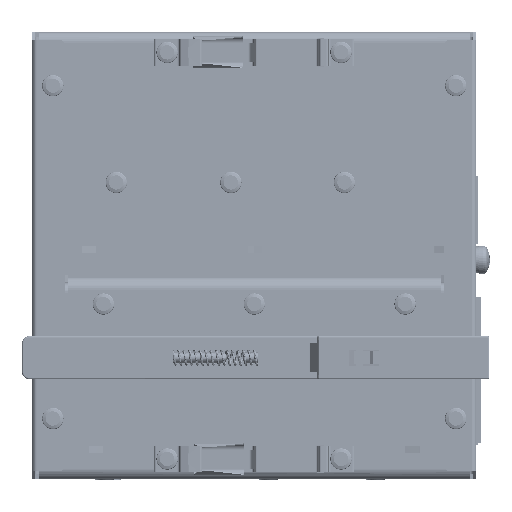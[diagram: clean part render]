
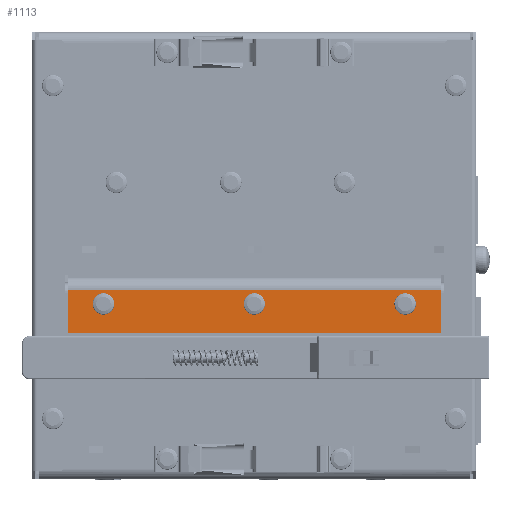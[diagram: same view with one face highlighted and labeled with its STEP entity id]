
A CAD part, left-side view. The second image highlights one B-rep face of the part: STEP entity #1113.
In plain terms, the highlighted planar face has unit normal (-1, 0, 0).
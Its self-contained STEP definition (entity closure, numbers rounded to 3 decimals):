
#901=CARTESIAN_POINT('',(-1.5,9.5,52.15));
#902=VERTEX_POINT('',#901);
#910=CARTESIAN_POINT('',(-1.5,9.5,-52.15));
#911=VERTEX_POINT('',#910);
#912=CARTESIAN_POINT('',(-1.5,9.5,52.15));
#913=DIRECTION('',(0.0,0.0,-1.0));
#914=VECTOR('',#913,104.3);
#915=LINE('',#912,#914);
#916=EDGE_CURVE('',#902,#911,#915,.T.);
#933=CARTESIAN_POINT('',(-1.5,13.5,1.6));
#934=VERTEX_POINT('',#933);
#935=CARTESIAN_POINT('',(-1.5,13.5,0.));
#936=DIRECTION('',(1.0,0.0,0.0));
#937=DIRECTION('',(0.0,0.0,-1.0));
#938=AXIS2_PLACEMENT_3D('',#935,#936,#937);
#939=CIRCLE('',#938,1.6);
#940=EDGE_CURVE('',#934,#934,#939,.T.);
#961=CARTESIAN_POINT('',(-1.5,13.5,-40.55));
#962=VERTEX_POINT('',#961);
#963=CARTESIAN_POINT('',(-1.5,13.5,-42.15));
#964=DIRECTION('',(1.0,0.0,0.0));
#965=DIRECTION('',(0.0,0.0,-1.0));
#966=AXIS2_PLACEMENT_3D('',#963,#964,#965);
#967=CIRCLE('',#966,1.6);
#968=EDGE_CURVE('',#962,#962,#967,.T.);
#989=CARTESIAN_POINT('',(-1.5,13.5,43.75));
#990=VERTEX_POINT('',#989);
#991=CARTESIAN_POINT('',(-1.5,13.5,42.15));
#992=DIRECTION('',(1.0,0.0,0.0));
#993=DIRECTION('',(0.0,0.0,-1.0));
#994=AXIS2_PLACEMENT_3D('',#991,#992,#993);
#995=CIRCLE('',#994,1.6);
#996=EDGE_CURVE('',#990,#990,#995,.T.);
#1017=CARTESIAN_POINT('',(-1.5,21.5,-52.15));
#1018=VERTEX_POINT('',#1017);
#1019=CARTESIAN_POINT('',(-1.5,21.5,52.15));
#1020=VERTEX_POINT('',#1019);
#1021=CARTESIAN_POINT('',(-1.5,21.5,-52.15));
#1022=DIRECTION('',(0.0,0.0,1.0));
#1023=VECTOR('',#1022,104.3);
#1024=LINE('',#1021,#1023);
#1025=EDGE_CURVE('',#1018,#1020,#1024,.T.);
#1083=CARTESIAN_POINT('',(-1.5,15.5,0.));
#1084=DIRECTION('',(1.0,0.0,0.0));
#1085=DIRECTION('',(0.0,0.0,-1.0));
#1086=AXIS2_PLACEMENT_3D('',#1083,#1084,#1085);
#1087=PLANE('',#1086);
#1088=CARTESIAN_POINT('',(-1.5,21.5,52.15));
#1089=DIRECTION('',(0.0,-1.0,0.0));
#1090=VECTOR('',#1089,12.);
#1091=LINE('',#1088,#1090);
#1092=EDGE_CURVE('',#1020,#902,#1091,.T.);
#1093=ORIENTED_EDGE('',*,*,#1092,.F.);
#1094=ORIENTED_EDGE('',*,*,#1025,.F.);
#1095=CARTESIAN_POINT('',(-1.5,9.5,-52.15));
#1096=DIRECTION('',(0.0,1.0,0.0));
#1097=VECTOR('',#1096,12.);
#1098=LINE('',#1095,#1097);
#1099=EDGE_CURVE('',#911,#1018,#1098,.T.);
#1100=ORIENTED_EDGE('',*,*,#1099,.F.);
#1101=ORIENTED_EDGE('',*,*,#916,.F.);
#1102=EDGE_LOOP('',(#1093,#1094,#1100,#1101));
#1103=FACE_OUTER_BOUND('',#1102,.T.);
#1104=ORIENTED_EDGE('',*,*,#940,.T.);
#1105=EDGE_LOOP('',(#1104));
#1106=FACE_BOUND('',#1105,.T.);
#1107=ORIENTED_EDGE('',*,*,#968,.T.);
#1108=EDGE_LOOP('',(#1107));
#1109=FACE_BOUND('',#1108,.T.);
#1110=ORIENTED_EDGE('',*,*,#996,.T.);
#1111=EDGE_LOOP('',(#1110));
#1112=FACE_BOUND('',#1111,.T.);
#1113=ADVANCED_FACE('',(#1103,#1106,#1109,#1112),#1087,.F.);
